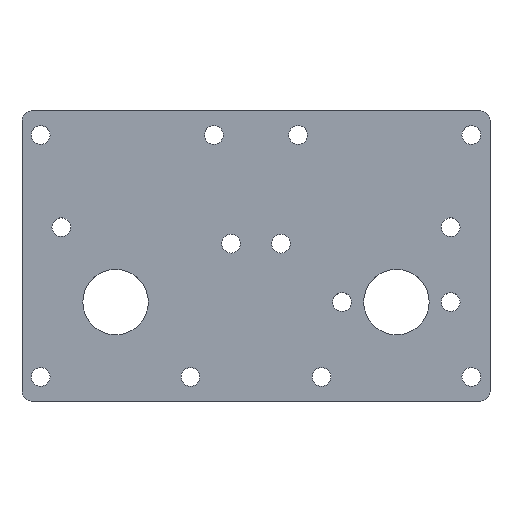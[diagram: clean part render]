
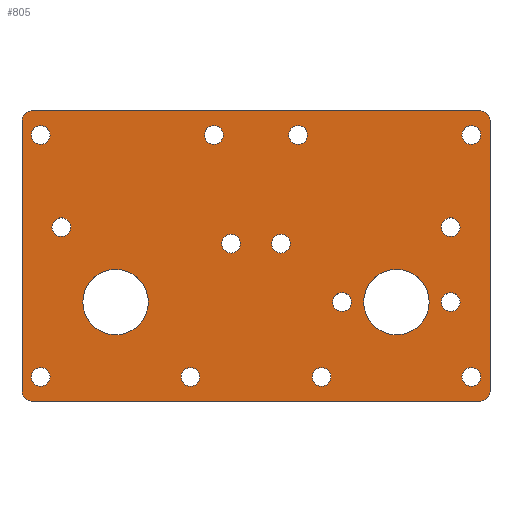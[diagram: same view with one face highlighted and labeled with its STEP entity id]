
A CAD part, top view. The second image highlights one B-rep face of the part: STEP entity #805.
In plain terms, the highlighted planar face has unit normal (0, 0, 1).
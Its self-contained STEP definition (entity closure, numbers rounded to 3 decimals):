
#35=CARTESIAN_POINT('',(-44.,25.85,0.));
#36=VERTEX_POINT('',#35);
#37=CARTESIAN_POINT('',(-46.,25.85,0.));
#38=DIRECTION('',(1.,0.,-0.));
#39=DIRECTION('',(0.,-0.,-1.));
#40=AXIS2_PLACEMENT_3D('',#37,#39,#38);
#41=CIRCLE('',#40,2.);
#42=EDGE_CURVE('',#36,#36,#41,.T.);
#68=CARTESIAN_POINT('',(48.,-25.85,0.));
#69=VERTEX_POINT('',#68);
#70=CARTESIAN_POINT('',(46.,-25.85,0.));
#71=DIRECTION('',(1.,0.,-0.));
#72=DIRECTION('',(0.,0.,-1.));
#73=AXIS2_PLACEMENT_3D('',#70,#72,#71);
#74=CIRCLE('',#73,2.);
#75=EDGE_CURVE('',#69,#69,#74,.T.);
#101=CARTESIAN_POINT('',(43.606,6.15,0.));
#102=VERTEX_POINT('',#101);
#103=CARTESIAN_POINT('',(41.606,6.15,0.));
#104=DIRECTION('',(1.,0.,-0.));
#105=DIRECTION('',(0.,-0.,-1.));
#106=AXIS2_PLACEMENT_3D('',#103,#105,#104);
#107=CIRCLE('',#106,2.);
#108=EDGE_CURVE('',#102,#102,#107,.T.);
#134=CARTESIAN_POINT('',(-39.606,6.15,0.));
#135=VERTEX_POINT('',#134);
#136=CARTESIAN_POINT('',(-41.606,6.15,0.));
#137=DIRECTION('',(1.,0.,-0.));
#138=DIRECTION('',(0.,-0.,-1.));
#139=AXIS2_PLACEMENT_3D('',#136,#138,#137);
#140=CIRCLE('',#139,2.);
#141=EDGE_CURVE('',#135,#135,#140,.T.);
#167=CARTESIAN_POINT('',(-12.,-25.85,0.));
#168=VERTEX_POINT('',#167);
#169=CARTESIAN_POINT('',(-14.,-25.85,0.));
#170=DIRECTION('',(1.,0.,-0.));
#171=DIRECTION('',(0.,0.,-1.));
#172=AXIS2_PLACEMENT_3D('',#169,#171,#170);
#173=CIRCLE('',#172,2.);
#174=EDGE_CURVE('',#168,#168,#173,.T.);
#200=CARTESIAN_POINT('',(48.,25.85,0.));
#201=VERTEX_POINT('',#200);
#202=CARTESIAN_POINT('',(46.,25.85,0.));
#203=DIRECTION('',(1.,0.,-0.));
#204=DIRECTION('',(0.,0.,-1.));
#205=AXIS2_PLACEMENT_3D('',#202,#204,#203);
#206=CIRCLE('',#205,2.);
#207=EDGE_CURVE('',#201,#201,#206,.T.);
#233=CARTESIAN_POINT('',(-23.,-9.85,0.));
#234=VERTEX_POINT('',#233);
#235=CARTESIAN_POINT('',(-30.,-9.85,0.));
#236=DIRECTION('',(1.,0.,-0.));
#237=DIRECTION('',(0.,0.,-1.));
#238=AXIS2_PLACEMENT_3D('',#235,#237,#236);
#239=CIRCLE('',#238,7.);
#240=EDGE_CURVE('',#234,#234,#239,.T.);
#266=CARTESIAN_POINT('',(20.394,-9.85,0.));
#267=VERTEX_POINT('',#266);
#268=CARTESIAN_POINT('',(18.394,-9.85,0.));
#269=DIRECTION('',(1.,0.,-0.));
#270=DIRECTION('',(0.,0.,-1.));
#271=AXIS2_PLACEMENT_3D('',#268,#270,#269);
#272=CIRCLE('',#271,2.);
#273=EDGE_CURVE('',#267,#267,#272,.T.);
#299=CARTESIAN_POINT('',(43.606,-9.85,0.));
#300=VERTEX_POINT('',#299);
#301=CARTESIAN_POINT('',(41.606,-9.85,0.));
#302=DIRECTION('',(1.,0.,-0.));
#303=DIRECTION('',(0.,-0.,-1.));
#304=AXIS2_PLACEMENT_3D('',#301,#303,#302);
#305=CIRCLE('',#304,2.);
#306=EDGE_CURVE('',#300,#300,#305,.T.);
#332=CARTESIAN_POINT('',(37.,-9.85,0.));
#333=VERTEX_POINT('',#332);
#334=CARTESIAN_POINT('',(30.,-9.85,0.));
#335=DIRECTION('',(1.,0.,-0.));
#336=DIRECTION('',(0.,0.,-1.));
#337=AXIS2_PLACEMENT_3D('',#334,#336,#335);
#338=CIRCLE('',#337,7.);
#339=EDGE_CURVE('',#333,#333,#338,.T.);
#365=CARTESIAN_POINT('',(11.,25.85,0.));
#366=VERTEX_POINT('',#365);
#367=CARTESIAN_POINT('',(9.,25.85,0.));
#368=DIRECTION('',(1.,0.,-0.));
#369=DIRECTION('',(0.,-0.,-1.));
#370=AXIS2_PLACEMENT_3D('',#367,#369,#368);
#371=CIRCLE('',#370,2.);
#372=EDGE_CURVE('',#366,#366,#371,.T.);
#398=CARTESIAN_POINT('',(-3.33,2.613,0.));
#399=VERTEX_POINT('',#398);
#400=CARTESIAN_POINT('',(-5.33,2.613,0.));
#401=DIRECTION('',(1.,0.,-0.));
#402=DIRECTION('',(0.,0.,-1.));
#403=AXIS2_PLACEMENT_3D('',#400,#402,#401);
#404=CIRCLE('',#403,2.);
#405=EDGE_CURVE('',#399,#399,#404,.T.);
#431=CARTESIAN_POINT('',(-44.,-25.85,0.));
#432=VERTEX_POINT('',#431);
#433=CARTESIAN_POINT('',(-46.,-25.85,0.));
#434=DIRECTION('',(1.,0.,-0.));
#435=DIRECTION('',(0.,-0.,-1.));
#436=AXIS2_PLACEMENT_3D('',#433,#435,#434);
#437=CIRCLE('',#436,2.);
#438=EDGE_CURVE('',#432,#432,#437,.T.);
#464=CARTESIAN_POINT('',(7.33,2.613,0.));
#465=VERTEX_POINT('',#464);
#466=CARTESIAN_POINT('',(5.33,2.613,0.));
#467=DIRECTION('',(1.,0.,-0.));
#468=DIRECTION('',(0.,0.,-1.));
#469=AXIS2_PLACEMENT_3D('',#466,#468,#467);
#470=CIRCLE('',#469,2.);
#471=EDGE_CURVE('',#465,#465,#470,.T.);
#497=CARTESIAN_POINT('',(16.,-25.85,0.));
#498=VERTEX_POINT('',#497);
#499=CARTESIAN_POINT('',(14.,-25.85,0.));
#500=DIRECTION('',(1.,0.,-0.));
#501=DIRECTION('',(0.,0.,-1.));
#502=AXIS2_PLACEMENT_3D('',#499,#501,#500);
#503=CIRCLE('',#502,2.);
#504=EDGE_CURVE('',#498,#498,#503,.T.);
#530=CARTESIAN_POINT('',(-7.,25.85,0.));
#531=VERTEX_POINT('',#530);
#532=CARTESIAN_POINT('',(-9.,25.85,0.));
#533=DIRECTION('',(1.,0.,-0.));
#534=DIRECTION('',(0.,0.,-1.));
#535=AXIS2_PLACEMENT_3D('',#532,#534,#533);
#536=CIRCLE('',#535,2.);
#537=EDGE_CURVE('',#531,#531,#536,.T.);
#563=CARTESIAN_POINT('',(48.,31.,0.));
#564=VERTEX_POINT('',#563);
#565=CARTESIAN_POINT('',(-48.,31.,0.));
#566=VERTEX_POINT('',#565);
#567=CARTESIAN_POINT('',(48.,31.,0.));
#568=DIRECTION('',(-1.,0.,0.));
#569=VECTOR('',#568,96.);
#570=LINE('',#567,#569);
#571=EDGE_CURVE('',#564,#566,#570,.T.);
#603=CARTESIAN_POINT('',(-50.,29.,0.));
#604=VERTEX_POINT('',#603);
#605=CARTESIAN_POINT('',(-50.,-29.,0.));
#606=VERTEX_POINT('',#605);
#607=CARTESIAN_POINT('',(-50.,29.,0.));
#608=DIRECTION('',(0.,-1.,0.));
#609=VECTOR('',#608,58.);
#610=LINE('',#607,#609);
#611=EDGE_CURVE('',#604,#606,#610,.T.);
#653=CARTESIAN_POINT('',(48.,-31.,0.));
#654=VERTEX_POINT('',#653);
#661=CARTESIAN_POINT('',(-48.,-31.,0.));
#662=VERTEX_POINT('',#661);
#663=CARTESIAN_POINT('',(-48.,-31.,0.));
#664=DIRECTION('',(1.,0.,0.));
#665=VECTOR('',#664,96.);
#666=LINE('',#663,#665);
#667=EDGE_CURVE('',#662,#654,#666,.T.);
#683=CARTESIAN_POINT('',(50.,-29.,0.));
#684=VERTEX_POINT('',#683);
#685=CARTESIAN_POINT('',(50.,29.,0.));
#686=VERTEX_POINT('',#685);
#687=CARTESIAN_POINT('',(50.,-29.,0.));
#688=DIRECTION('',(0.,1.,0.));
#689=VECTOR('',#688,58.);
#690=LINE('',#687,#689);
#691=EDGE_CURVE('',#684,#686,#690,.T.);
#718=CARTESIAN_POINT('',(0.,19.,0.));
#719=DIRECTION('',(1.,0.,0.));
#720=DIRECTION('',(0.,0.,1.));
#721=AXIS2_PLACEMENT_3D('',#718,#720,#719);
#722=PLANE('',#721);
#723=ORIENTED_EDGE('',*,*,#611,.T.);
#724=CARTESIAN_POINT('',(-48.,-29.,0.));
#725=DIRECTION('',(-1.,0.,0.));
#726=DIRECTION('',(0.,0.,1.));
#727=AXIS2_PLACEMENT_3D('',#724,#726,#725);
#728=CIRCLE('',#727,2.);
#729=EDGE_CURVE('',#606,#662,#728,.T.);
#730=ORIENTED_EDGE('E70',*,*,#729,.T.);
#731=ORIENTED_EDGE('E70',*,*,#667,.T.);
#732=CARTESIAN_POINT('',(48.,-29.,0.));
#733=DIRECTION('',(0.,-1.,0.));
#734=DIRECTION('',(0.,0.,1.));
#735=AXIS2_PLACEMENT_3D('',#732,#734,#733);
#736=CIRCLE('',#735,2.);
#737=EDGE_CURVE('',#654,#684,#736,.T.);
#738=ORIENTED_EDGE('E71',*,*,#737,.T.);
#739=ORIENTED_EDGE('E71',*,*,#691,.T.);
#740=CARTESIAN_POINT('',(48.,29.,0.));
#741=DIRECTION('',(1.,0.,0.));
#742=DIRECTION('',(0.,0.,1.));
#743=AXIS2_PLACEMENT_3D('',#740,#742,#741);
#744=CIRCLE('',#743,2.);
#745=EDGE_CURVE('',#686,#564,#744,.T.);
#746=ORIENTED_EDGE('E72',*,*,#745,.T.);
#747=ORIENTED_EDGE('E72',*,*,#571,.T.);
#748=CARTESIAN_POINT('',(-48.,29.,0.));
#749=DIRECTION('',(0.,1.,0.));
#750=DIRECTION('',(0.,0.,1.));
#751=AXIS2_PLACEMENT_3D('',#748,#750,#749);
#752=CIRCLE('',#751,2.);
#753=EDGE_CURVE('',#566,#604,#752,.T.);
#754=ORIENTED_EDGE('E69',*,*,#753,.T.);
#755=EDGE_LOOP('',(#723,#730,#731,#738,#739,#746,#747,#754));
#756=FACE_OUTER_BOUND('',#755,.T.);
#757=ORIENTED_EDGE('',*,*,#537,.T.);
#758=EDGE_LOOP('',(#757));
#759=FACE_BOUND('',#758,.T.);
#760=ORIENTED_EDGE('',*,*,#504,.T.);
#761=EDGE_LOOP('',(#760));
#762=FACE_BOUND('',#761,.T.);
#763=ORIENTED_EDGE('',*,*,#471,.T.);
#764=EDGE_LOOP('',(#763));
#765=FACE_BOUND('',#764,.T.);
#766=ORIENTED_EDGE('',*,*,#438,.T.);
#767=EDGE_LOOP('',(#766));
#768=FACE_BOUND('',#767,.T.);
#769=ORIENTED_EDGE('',*,*,#405,.T.);
#770=EDGE_LOOP('',(#769));
#771=FACE_BOUND('',#770,.T.);
#772=ORIENTED_EDGE('',*,*,#372,.T.);
#773=EDGE_LOOP('',(#772));
#774=FACE_BOUND('',#773,.T.);
#775=ORIENTED_EDGE('',*,*,#339,.T.);
#776=EDGE_LOOP('',(#775));
#777=FACE_BOUND('',#776,.T.);
#778=ORIENTED_EDGE('',*,*,#306,.T.);
#779=EDGE_LOOP('',(#778));
#780=FACE_BOUND('',#779,.T.);
#781=ORIENTED_EDGE('',*,*,#273,.T.);
#782=EDGE_LOOP('',(#781));
#783=FACE_BOUND('',#782,.T.);
#784=ORIENTED_EDGE('',*,*,#240,.T.);
#785=EDGE_LOOP('',(#784));
#786=FACE_BOUND('',#785,.T.);
#787=ORIENTED_EDGE('',*,*,#207,.T.);
#788=EDGE_LOOP('',(#787));
#789=FACE_BOUND('',#788,.T.);
#790=ORIENTED_EDGE('',*,*,#174,.T.);
#791=EDGE_LOOP('',(#790));
#792=FACE_BOUND('',#791,.T.);
#793=ORIENTED_EDGE('',*,*,#141,.T.);
#794=EDGE_LOOP('',(#793));
#795=FACE_BOUND('',#794,.T.);
#796=ORIENTED_EDGE('',*,*,#108,.T.);
#797=EDGE_LOOP('',(#796));
#798=FACE_BOUND('',#797,.T.);
#799=ORIENTED_EDGE('',*,*,#75,.T.);
#800=EDGE_LOOP('',(#799));
#801=FACE_BOUND('',#800,.T.);
#802=ORIENTED_EDGE('',*,*,#42,.T.);
#803=EDGE_LOOP('',(#802));
#804=FACE_BOUND('',#803,.T.);
#805=ADVANCED_FACE('F52',(#756,#759,#762,#765,#768,#771,#774,#777,#780,#783,#786,#789,#792,#795,#798,#801,#804),#722,.T.);
